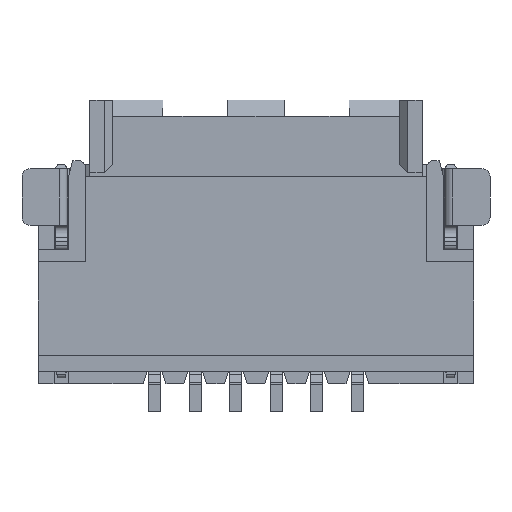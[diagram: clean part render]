
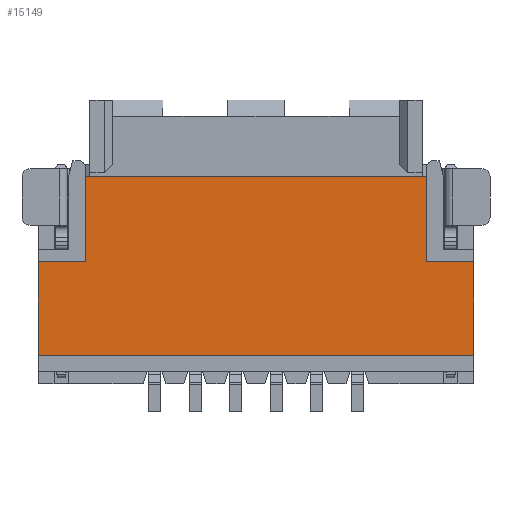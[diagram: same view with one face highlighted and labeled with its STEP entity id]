
A CAD part, front view. The second image highlights one B-rep face of the part: STEP entity #15149.
In plain terms, the highlighted planar face has unit normal (0, -1, 0).
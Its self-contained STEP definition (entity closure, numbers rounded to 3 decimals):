
#1=DIRECTION('',(1.,0.,0.));
#2=VECTOR('',#1,4.2);
#3=CARTESIAN_POINT('',(0.585,0.,-0.2));
#4=LINE('',#3,#2);
#5=DIRECTION('',(1.,0.,0.));
#6=VECTOR('',#5,5.37);
#7=CARTESIAN_POINT('',(0.,0.,-2.4));
#8=LINE('',#7,#6);
#2222=DIRECTION('',(0.,0.,1.));
#2223=VECTOR('',#2222,1.15);
#2224=CARTESIAN_POINT('',(5.37,0.,-2.4));
#2225=LINE('',#2224,#2223);
#2250=DIRECTION('',(-1.,0.,0.));
#2251=VECTOR('',#2250,0.585);
#2252=CARTESIAN_POINT('',(5.37,0.,-1.25));
#2253=LINE('',#2252,#2251);
#2254=DIRECTION('',(0.,0.,1.));
#2255=VECTOR('',#2254,1.05);
#2256=CARTESIAN_POINT('',(4.785,0.,-1.25));
#2257=LINE('',#2256,#2255);
#4322=DIRECTION('',(0.,0.,-1.));
#4323=VECTOR('',#4322,1.15);
#4324=CARTESIAN_POINT('',(0.,0.,-1.25));
#4325=LINE('',#4324,#4323);
#9897=DIRECTION('',(0.,0.,-1.));
#9898=VECTOR('',#9897,1.05);
#9899=CARTESIAN_POINT('',(0.585,0.,-0.2));
#9900=LINE('',#9899,#9898);
#9921=DIRECTION('',(-1.,0.,0.));
#9922=VECTOR('',#9921,0.585);
#9923=CARTESIAN_POINT('',(0.585,0.,-1.25));
#9924=LINE('',#9923,#9922);
#11535=CARTESIAN_POINT('',(0.585,0.,-0.2));
#11536=CARTESIAN_POINT('',(4.785,0.,-0.2));
#11537=VERTEX_POINT('',#11535);
#11538=VERTEX_POINT('',#11536);
#11539=CARTESIAN_POINT('',(0.,0.,-2.4));
#11541=VERTEX_POINT('',#11539);
#11543=CARTESIAN_POINT('',(5.37,0.,-2.4));
#11544=VERTEX_POINT('',#11543);
#11876=CARTESIAN_POINT('',(0.,0.,-1.25));
#11877=VERTEX_POINT('',#11876);
#12156=CARTESIAN_POINT('',(5.37,0.,-1.25));
#12157=VERTEX_POINT('',#12156);
#12162=CARTESIAN_POINT('',(4.785,0.,-1.25));
#12163=VERTEX_POINT('',#12162);
#12219=CARTESIAN_POINT('',(0.585,0.,-1.25));
#12220=VERTEX_POINT('',#12219);
#15127=CARTESIAN_POINT('',(2.685,0.,-1.3));
#15128=DIRECTION('',(0.,1.,0.));
#15129=DIRECTION('',(1.,0.,0.));
#15130=AXIS2_PLACEMENT_3D('',#15127,#15128,#15129);
#15131=PLANE('',#15130);
#15133=ORIENTED_EDGE('',*,*,#15132,.F.);
#15135=ORIENTED_EDGE('',*,*,#15134,.F.);
#15137=ORIENTED_EDGE('',*,*,#15136,.F.);
#15139=ORIENTED_EDGE('',*,*,#15138,.F.);
#15140=ORIENTED_EDGE('',*,*,#15088,.T.);
#15142=ORIENTED_EDGE('',*,*,#15141,.F.);
#15144=ORIENTED_EDGE('',*,*,#15143,.F.);
#15146=ORIENTED_EDGE('',*,*,#15145,.F.);
#15147=EDGE_LOOP('',(#15133,#15135,#15137,#15139,#15140,#15142,#15144,#15146));
#15148=FACE_OUTER_BOUND('',#15147,.F.);
#15088=EDGE_CURVE('',#11537,#11538,#4,.T.);
#15132=EDGE_CURVE('',#11541,#11544,#8,.T.);
#15134=EDGE_CURVE('',#11877,#11541,#4325,.T.);
#15136=EDGE_CURVE('',#12220,#11877,#9924,.T.);
#15138=EDGE_CURVE('',#11537,#12220,#9900,.T.);
#15141=EDGE_CURVE('',#12163,#11538,#2257,.T.);
#15143=EDGE_CURVE('',#12157,#12163,#2253,.T.);
#15145=EDGE_CURVE('',#11544,#12157,#2225,.T.);
#15149=ADVANCED_FACE('',(#15148),#15131,.F.);
